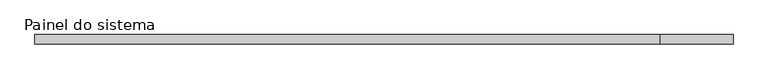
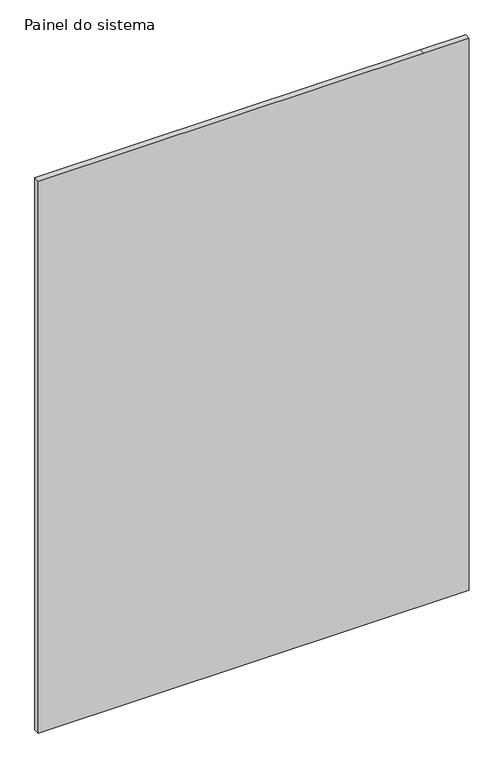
"""IFC4 building model written with IfcOpenShell, lengths in millimetres: plate geometry, Painel do sistema : Envidraçado."""

from ifc_helpers import new_model, si_unit, frame, origin, place, context, project, spatial, polyline, outline, extrude, source, transform, mapped, element, save


def painel_do_sistema_bb9324e2(model_context):
    return source(origin(), model_context, "Body", "SweptSolid", [
        extrude(outline(polyline([(0.0, -735.0), (0.0, 735.0), (1990.0, 735.0), (1990.0, 581.1500336), (1990.0, -735.0), (0.0, -735.0)])), frame((0.0, -10.0, 0.0), z_axis=(0.0, 1.0, 0.0), x_axis=(0.0, 0.0, 1.0)), (0.0, 0.0, 1.0), 20.0),
    ])


if __name__ == "__main__":
    model = new_model("IFC4")
    model_context = context("Model", 3, world=origin())
    ifc_project = project(units=[si_unit("LENGTHUNIT", "METRE", prefix="MILLI")], contexts=[model_context])
    site = spatial("IfcSite", under=ifc_project)
    building = spatial("IfcBuilding", under=site)
    placement = place(None, origin())
    painel_do_sistema_shape = painel_do_sistema_bb9324e2(model_context)
    element("IfcPlate", 1, ObjectType="Painel do sistema : Envidraçado", at=placement, inside=building, context=model_context, shape_type="MappedRepresentation", body=[
        mapped(painel_do_sistema_shape, transform((0.0, 0.0, 0.0), x_axis=(1.0, 0.0, 0.0), y_axis=(0.0, 1.0, 0.0), z_axis=(0.0, 0.0, 1.0))),
    ])
    save(model, "model.ifc")
